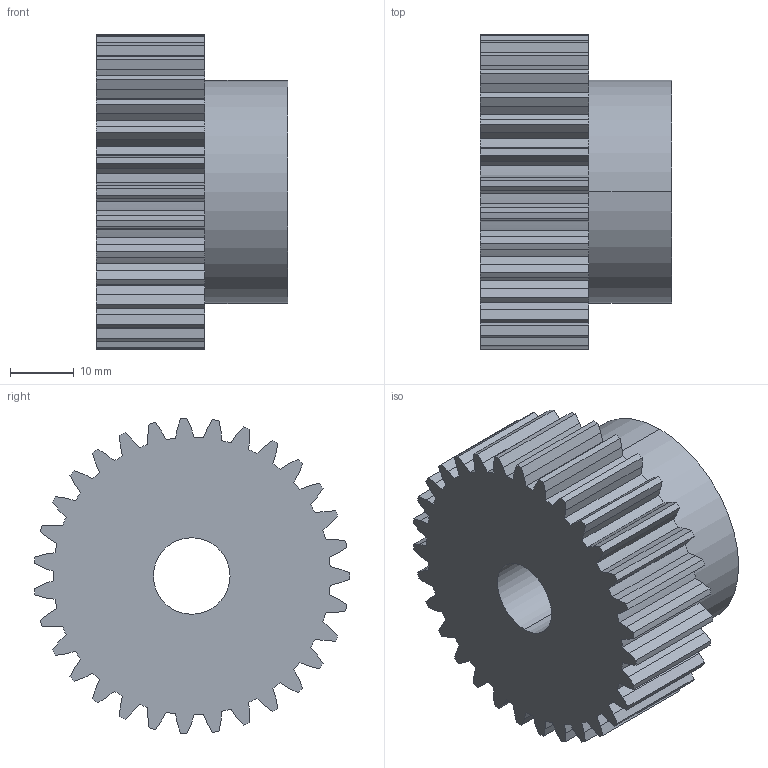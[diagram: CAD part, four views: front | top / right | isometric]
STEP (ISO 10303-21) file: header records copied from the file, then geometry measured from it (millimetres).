
FILE_DESCRIPTION (( 'STEP AP203' ), '1' );
FILE_NAME ('PM 27031.STEP', '2013-09-24T10:10:13', ( '' ), ( '' ), 'SwSTEP 2.0', 'SolidWorks 2010', '' );
FILE_SCHEMA (( 'CONFIG_CONTROL_DESIGN' ));
Length unit declared in the file: millimetre
Products named in the file (1): PM 27031
Bounding box: 30 x 49.42 x 49.48 mm (x, y, z)
Volume: 37647.5 mm3; surface area: 10365.7 mm2
Topology: 1 solids, 1 shells, 193 faces, 570 edges, 380 vertices
Faces by surface type: plane 127, cylinder 66
Entity records: 6519 total; most frequent: CARTESIAN_POINT 1150, ORIENTED_EDGE 1140, DIRECTION 1088, EDGE_CURVE 570, LINE 436, VECTOR 436, VERTEX_POINT 380, AXIS2_PLACEMENT_3D 326
